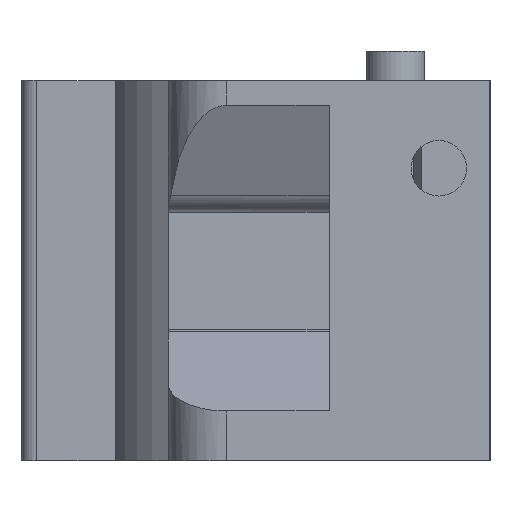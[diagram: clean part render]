
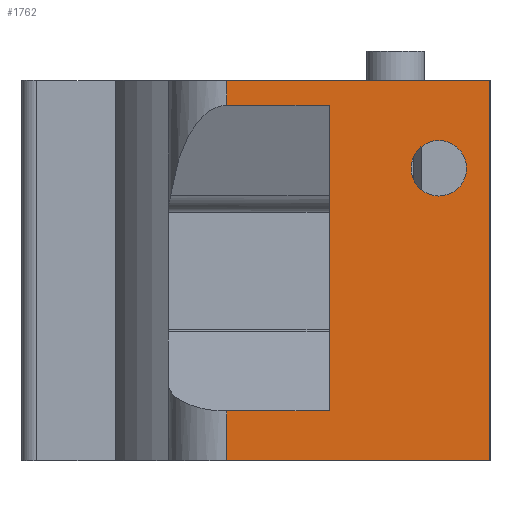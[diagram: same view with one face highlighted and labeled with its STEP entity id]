
A CAD part, left-side view. The second image highlights one B-rep face of the part: STEP entity #1762.
In plain terms, the highlighted planar face has unit normal (-1, 0, 0).
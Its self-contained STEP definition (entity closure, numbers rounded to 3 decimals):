
#927=CARTESIAN_POINT('',(-45.5,3.5,8.9));
#928=VERTEX_POINT('',#927);
#929=CARTESIAN_POINT('',(-45.5,3.5,7.0));
#930=DIRECTION('',(1.0,0.0,0.0));
#931=DIRECTION('',(0.0,0.0,-1.0));
#932=AXIS2_PLACEMENT_3D('',#929,#930,#931);
#933=CIRCLE('',#932,1.9);
#934=EDGE_CURVE('',#928,#928,#933,.T.);
#1092=CARTESIAN_POINT('',(-45.5,18.,-9.596));
#1093=VERTEX_POINT('',#1092);
#1103=CARTESIAN_POINT('',(-45.5,11.,-9.596));
#1104=VERTEX_POINT('',#1103);
#1105=CARTESIAN_POINT('',(-45.5,11.0,-9.596));
#1106=DIRECTION('',(0.0,1.0,0.0));
#1107=VECTOR('',#1106,7.);
#1108=LINE('',#1105,#1107);
#1109=EDGE_CURVE('',#1104,#1093,#1108,.T.);
#1183=CARTESIAN_POINT('',(-45.5,18.,11.3));
#1184=VERTEX_POINT('',#1183);
#1200=CARTESIAN_POINT('',(-45.5,11.,11.3));
#1201=VERTEX_POINT('',#1200);
#1208=CARTESIAN_POINT('',(-45.5,18.,11.3));
#1209=DIRECTION('',(0.0,-1.0,0.0));
#1210=VECTOR('',#1209,7.);
#1211=LINE('',#1208,#1210);
#1212=EDGE_CURVE('',#1184,#1201,#1211,.T.);
#1380=CARTESIAN_POINT('',(-45.5,11.,11.3));
#1381=DIRECTION('',(0.0,0.0,-1.0));
#1382=VECTOR('',#1381,20.896);
#1383=LINE('',#1380,#1382);
#1384=EDGE_CURVE('',#1201,#1104,#1383,.T.);
#1711=CARTESIAN_POINT('',(-45.5,0.0,0.0));
#1712=DIRECTION('',(-1.0,0.0,0.0));
#1713=DIRECTION('',(0.0,0.0,1.0));
#1714=AXIS2_PLACEMENT_3D('',#1711,#1712,#1713);
#1715=PLANE('',#1714);
#1716=ORIENTED_EDGE('',*,*,#1212,.T.);
#1717=ORIENTED_EDGE('',*,*,#1384,.T.);
#1718=ORIENTED_EDGE('',*,*,#1109,.T.);
#1719=CARTESIAN_POINT('',(-45.5,18.,-13.0));
#1720=VERTEX_POINT('',#1719);
#1721=CARTESIAN_POINT('',(-45.5,18.,-9.596));
#1722=DIRECTION('',(0.0,0.0,-1.0));
#1723=VECTOR('',#1722,3.404);
#1724=LINE('',#1721,#1723);
#1725=EDGE_CURVE('',#1093,#1720,#1724,.T.);
#1726=ORIENTED_EDGE('',*,*,#1725,.T.);
#1727=CARTESIAN_POINT('',(-45.5,0.0,-13.0));
#1728=VERTEX_POINT('',#1727);
#1729=CARTESIAN_POINT('',(-45.5,18.,-13.0));
#1730=DIRECTION('',(0.0,-1.0,0.0));
#1731=VECTOR('',#1730,18.);
#1732=LINE('',#1729,#1731);
#1733=EDGE_CURVE('',#1720,#1728,#1732,.T.);
#1734=ORIENTED_EDGE('',*,*,#1733,.T.);
#1735=CARTESIAN_POINT('',(-45.5,0.0,13.0));
#1736=VERTEX_POINT('',#1735);
#1737=CARTESIAN_POINT('',(-45.5,0.0,13.0));
#1738=DIRECTION('',(0.0,0.0,-1.0));
#1739=VECTOR('',#1738,26.0);
#1740=LINE('',#1737,#1739);
#1741=EDGE_CURVE('',#1736,#1728,#1740,.T.);
#1742=ORIENTED_EDGE('',*,*,#1741,.F.);
#1743=CARTESIAN_POINT('',(-45.5,18.,13.0));
#1744=VERTEX_POINT('',#1743);
#1745=CARTESIAN_POINT('',(-45.5,0.0,13.0));
#1746=DIRECTION('',(0.0,1.0,0.0));
#1747=VECTOR('',#1746,18.);
#1748=LINE('',#1745,#1747);
#1749=EDGE_CURVE('',#1736,#1744,#1748,.T.);
#1750=ORIENTED_EDGE('',*,*,#1749,.T.);
#1751=CARTESIAN_POINT('',(-45.5,18.,13.0));
#1752=DIRECTION('',(0.0,0.0,-1.0));
#1753=VECTOR('',#1752,1.7);
#1754=LINE('',#1751,#1753);
#1755=EDGE_CURVE('',#1744,#1184,#1754,.T.);
#1756=ORIENTED_EDGE('',*,*,#1755,.T.);
#1757=EDGE_LOOP('',(#1716,#1717,#1718,#1726,#1734,#1742,#1750,#1756));
#1758=FACE_OUTER_BOUND('',#1757,.T.);
#1759=ORIENTED_EDGE('',*,*,#934,.T.);
#1760=EDGE_LOOP('',(#1759));
#1761=FACE_BOUND('',#1760,.T.);
#1762=ADVANCED_FACE('',(#1758,#1761),#1715,.T.);
